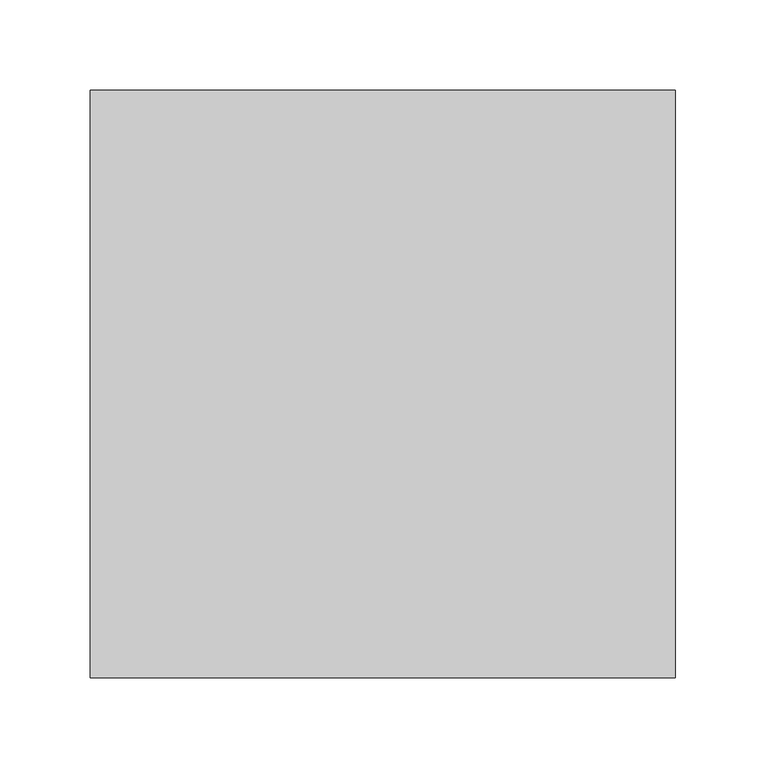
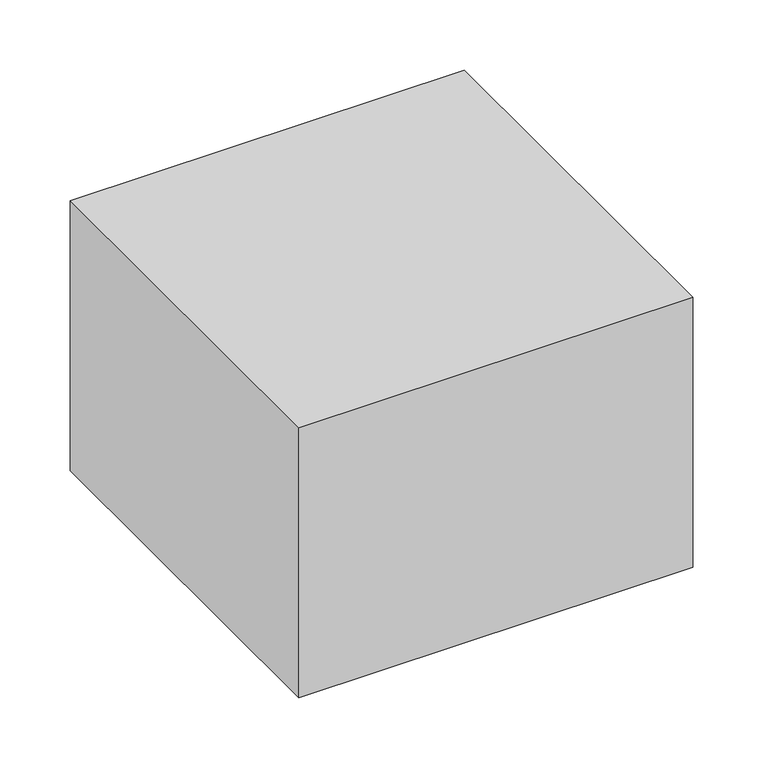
"""IFC4 building model written with IfcOpenShell, lengths in millimetres: column geometry, Column Encasement10 : Column Encasement."""

import ifcopenshell
import ifcopenshell.guid

model = None  # the IFC model being written
_history = None  # IfcOwnerHistory: only IFC2X3 demands one
_inside = {}  # id of a spatial element -> (the spatial element, [elements in it])
_under = {}  # id of a project, library or spatial element -> (it, [spatial elements below it])
_declared = {}  # id of a project -> (the project, [libraries it declares])
_typed = {}  # id of a type object -> (the type object, [elements of that type])
_made_of = {}  # id of a material, layer set ... -> (it, [elements and type objects made of it])


def new_model(schema):
    """Start an empty IFC model of exactly this schema.

    Asked for "IFC4X3", IfcOpenShell would pick the latest addendum, in which some entities
    have other attributes; the version numbers below select the first issue.
    IFC2X3 requires an IfcOwnerHistory on every rooted entity: one is made here for all.
    """
    global model, _history
    if schema == "IFC4X3":
        model = ifcopenshell.file(schema_version=(4, 3, 0, 0))
    else:
        model = ifcopenshell.file(schema=schema)
    _inside.clear()
    _under.clear()
    _declared.clear()
    _typed.clear()
    _made_of.clear()
    _history = None
    if model.schema == "IFC2X3":
        org = make("IfcOrganization", Name="unknown")
        user = make(
            "IfcPersonAndOrganization",
            ThePerson=make("IfcPerson", FamilyName="unknown"),
            TheOrganization=org,
        )
        app = make(
            "IfcApplication",
            ApplicationDeveloper=org,
            Version="unknown",
            ApplicationFullName="unknown",
            ApplicationIdentifier="unknown",
        )
        _history = make(
            "IfcOwnerHistory",
            OwningUser=user,
            OwningApplication=app,
            ChangeAction="ADDED",
            CreationDate=0,
        )
    return model


def make(cls, **values):
    """One entity of the class cls with the attributes given. An attribute that is None is left unset."""
    return model.create_entity(
        cls, **{name: value for name, value in values.items() if value is not None}
    )


def rooted(cls, **values):
    """An entity with a GlobalId (a new one), such as an element, a storey or a relation."""
    return make(cls, GlobalId=ifcopenshell.guid.new(), OwnerHistory=_history, **values)


def si_unit(unit_type, name, prefix=None):
    """IfcSIUnit, for example si_unit("LENGTHUNIT", "METRE", prefix="MILLI")."""
    return make("IfcSIUnit", UnitType=unit_type, Prefix=prefix, Name=name)


def assignment(units):
    """IfcUnitAssignment: the units of a project."""
    return None if units is None else make("IfcUnitAssignment", Units=units)


def point(xyz):
    """IfcCartesianPoint."""
    return None if xyz is None else make("IfcCartesianPoint", Coordinates=xyz)


def direction(xyz):
    """IfcDirection."""
    return None if xyz is None else make("IfcDirection", DirectionRatios=xyz)


def frame(location, z_axis=None, x_axis=None):
    """IfcAxis2Placement3D, a coordinate frame: its origin and axes. An axis left out is left unset."""
    return make(
        "IfcAxis2Placement3D",
        Location=point(location),
        Axis=direction(z_axis),
        RefDirection=direction(x_axis),
    )


def origin():
    """The frame at (0, 0, 0) with its axes left unset."""
    return frame((0.0, 0.0, 0.0))


def place(relative_to, where):
    """IfcLocalPlacement: puts the frame where relative to a parent placement (None: the world)."""
    return make(
        "IfcLocalPlacement", PlacementRelTo=relative_to, RelativePlacement=where
    )


def context(
    kind, dimensions, precision=None, world=None, true_north=None, identifier=None
):
    """IfcGeometricRepresentationContext, for example the 3D "Model" context."""
    return make(
        "IfcGeometricRepresentationContext",
        ContextIdentifier=identifier,
        ContextType=kind,
        CoordinateSpaceDimension=dimensions,
        Precision=precision,
        WorldCoordinateSystem=world,
        TrueNorth=true_north,
    )


def project(units=None, contexts=None):
    """IfcProject with its units and contexts."""
    return rooted(
        "IfcProject",
        Name="project",
        RepresentationContexts=contexts,
        UnitsInContext=assignment(units),
    )


def spatial(cls, under=None, at=None, **own):
    """A site, building, storey or space (cls), placed at a placement, below another one or the project."""
    s = rooted(cls, ObjectPlacement=at, **own)
    if under is not None:
        _under.setdefault(under.id(), (under, []))[1].append(s)
    return s


def polyline(points):
    """IfcPolyline through the points."""
    return make("IfcPolyline", Points=[point(p) for p in points])


def outline(outer, holes=None, kind="AREA"):
    """IfcArbitraryClosedProfileDef: a profile drawn as a closed curve; with holes, ...WithVoids."""
    if holes is None:
        return make("IfcArbitraryClosedProfileDef", ProfileType=kind, OuterCurve=outer)
    return make(
        "IfcArbitraryProfileDefWithVoids",
        ProfileType=kind,
        OuterCurve=outer,
        InnerCurves=holes,
    )


def extrude(swept, where, along, depth):
    """IfcExtrudedAreaSolid: the profile swept, set in the frame where, extruded along a direction by depth."""
    return make(
        "IfcExtrudedAreaSolid",
        SweptArea=swept,
        Position=where,
        ExtrudedDirection=direction(along),
        Depth=depth,
    )


def shape(context_of_items, identifier, shape_type, items):
    """IfcShapeRepresentation: the items that make up one representation, for example the "Body"."""
    return make(
        "IfcShapeRepresentation",
        ContextOfItems=context_of_items,
        RepresentationIdentifier=identifier,
        RepresentationType=shape_type,
        Items=items,
    )


def source(mapping_origin, context_of_items, identifier, shape_type, items):
    """IfcRepresentationMap: a shape defined once, which mapped items show again and again."""
    return make(
        "IfcRepresentationMap",
        MappingOrigin=mapping_origin,
        MappedRepresentation=shape(context_of_items, identifier, shape_type, items),
    )


def transform(
    local_origin,
    x_axis=None,
    y_axis=None,
    z_axis=None,
    scale=None,
    scale2=None,
    scale3=None,
    uniform=True,
):
    """IfcCartesianTransformationOperator3D, or its non-uniform kind. x_axis, y_axis, z_axis: its Axis1, 2, 3."""
    if uniform:
        return make(
            "IfcCartesianTransformationOperator3D",
            Axis1=direction(x_axis),
            Axis2=direction(y_axis),
            LocalOrigin=point(local_origin),
            Scale=scale,
            Axis3=direction(z_axis),
        )
    return make(
        "IfcCartesianTransformationOperator3DnonUniform",
        Axis1=direction(x_axis),
        Axis2=direction(y_axis),
        LocalOrigin=point(local_origin),
        Scale=scale,
        Axis3=direction(z_axis),
        Scale2=scale2,
        Scale3=scale3,
    )


def mapped(mapping_source, mapping_target):
    """IfcMappedItem: shows the shape of a source again, moved by a transform."""
    return make(
        "IfcMappedItem", MappingSource=mapping_source, MappingTarget=mapping_target
    )


def made_of(thing, what):
    """Note that an element or type object is made of a material, layer set ...; save() writes the relation."""
    if what is not None:
        _made_of.setdefault(what.id(), (what, []))[1].append(thing)
    return thing


def element(
    cls,
    number,
    at=None,
    inside=None,
    cuts=None,
    type_object=None,
    material=None,
    context=None,
    identifier="Body",
    shape_type=None,
    held_by="IfcProductDefinitionShape",
    body=None,
    shapes=None,
    **own,
):
    """One element of the class cls, such as IfcWall. Its Tag is "e" and its number.

    at: its placement. inside: the storey or other place that contains it. cuts: it is an
    opening in that element (IfcRelVoidsElement). A single representation is given by context,
    identifier, shape_type and body (its items); several are given by shapes. held_by: the class
    of the entity that holds the representations. save() writes the other relations.
    """
    e = rooted(cls, Tag="e%d" % number, ObjectPlacement=at, **own)
    if body is not None:
        shapes = [shape(context, identifier, shape_type, body)]
    if shapes is not None:
        e.Representation = make(held_by, Representations=shapes)
    if inside is not None:
        _inside.setdefault(inside.id(), (inside, []))[1].append(e)
    if cuts is not None:
        rooted(
            "IfcRelVoidsElement", RelatingBuildingElement=cuts, RelatedOpeningElement=e
        )
    if type_object is not None:
        _typed.setdefault(type_object.id(), (type_object, []))[1].append(e)
    return made_of(e, material)


def aggregate(whole, parts):
    """IfcRelAggregates: a whole, such as a stair, and the parts it consists of."""
    return rooted("IfcRelAggregates", RelatingObject=whole, RelatedObjects=parts)


def save(model, path):
    """Write the relations noted so far, then the file.

    IfcRelAggregates (storeys below a building ...), IfcRelContainedInSpatialStructure (elements
    in a storey), IfcRelDefinesByType, IfcRelAssociatesMaterial and IfcRelDeclares: one each for
    every whole, place, type object, material and project.
    """
    for whole, parts in _under.values():
        aggregate(whole, parts)
    for where, things in _inside.values():
        rooted(
            "IfcRelContainedInSpatialStructure",
            RelatedElements=things,
            RelatingStructure=where,
        )
    for kind, things in _typed.values():
        rooted("IfcRelDefinesByType", RelatedObjects=things, RelatingType=kind)
    for what, things in _made_of.values():
        rooted("IfcRelAssociatesMaterial", RelatedObjects=things, RelatingMaterial=what)
    for by, libraries in _declared.values():
        rooted("IfcRelDeclares", RelatingContext=by, RelatedDefinitions=libraries)
    model.write(path)


def column_9c828cce(model_context):
    return source(origin(), model_context, "Body", "SweptSolid", [
        extrude(outline(polyline([(-31932.1278539, 5310.1866486), (-31932.1278539, 5635.8394306), (-31607.7840629, 5635.8394306), (-31607.7840629, 5310.1866486), (-31932.1278539, 5310.1866486)])), frame((0.0, 0.0, 7.0), z_axis=(0.0, 0.0, 1.0), x_axis=(1.0, 0.0, 0.0)), (0.0, 0.0, 1.0), 235.0),
    ])


if __name__ == "__main__":
    model = new_model("IFC4")
    model_context = context("Model", 3, world=origin())
    ifc_project = project(units=[si_unit("LENGTHUNIT", "METRE", prefix="MILLI")], contexts=[model_context])
    site = spatial("IfcSite", under=ifc_project)
    building = spatial("IfcBuilding", under=site)
    placement = place(None, origin())
    column_shape = column_9c828cce(model_context)
    element("IfcColumn", 1, ObjectType="Column Encasement10 : Column Encasement", at=placement, inside=building, context=model_context, shape_type="MappedRepresentation", body=[
        mapped(column_shape, transform((0.0, 0.0, 0.0), x_axis=(1.0, 0.0, 0.0), y_axis=(0.0, 1.0, 0.0), z_axis=(0.0, 0.0, 1.0))),
    ])
    save(model, "model.ifc")
